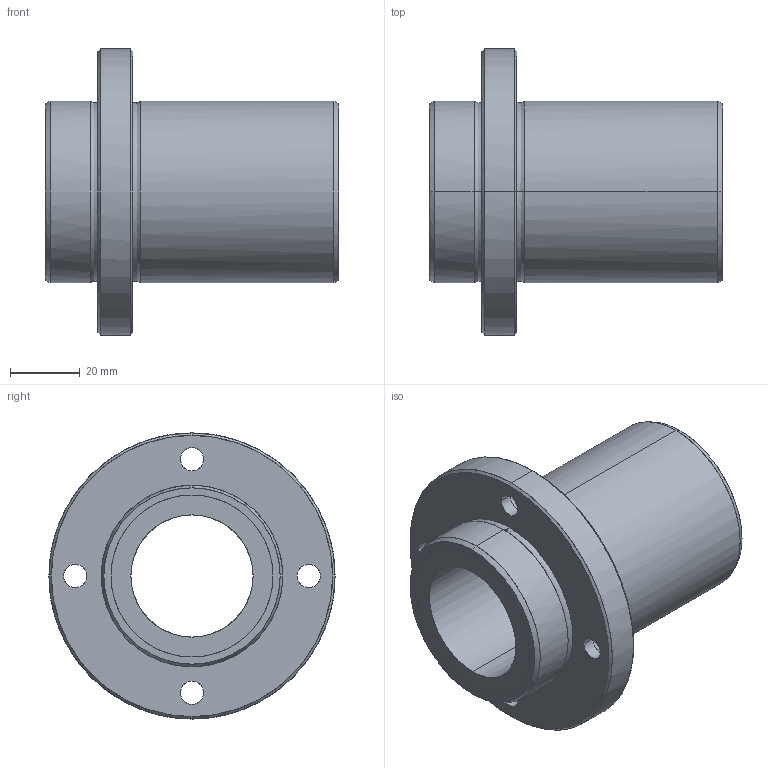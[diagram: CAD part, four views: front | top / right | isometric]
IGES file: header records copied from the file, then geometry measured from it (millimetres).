
Global section: file name: No Iges File Name specified; native system: AutoDesk Inventor R11.0; preprocessor: AutoDesk Inventor Iges Exporter R11.0; author: No Author specified; organization: No Organization specified; date: 20170921.132441; units: millimetre
Bounding box: 84 x 82 x 82 mm (x, y, z)
Surface area: 33195.1 mm2 (no closed solid volume)
Topology: 0 solids, 0 shells, 50 faces, 352 edges, 352 vertices
Faces by surface type: bspline 50
